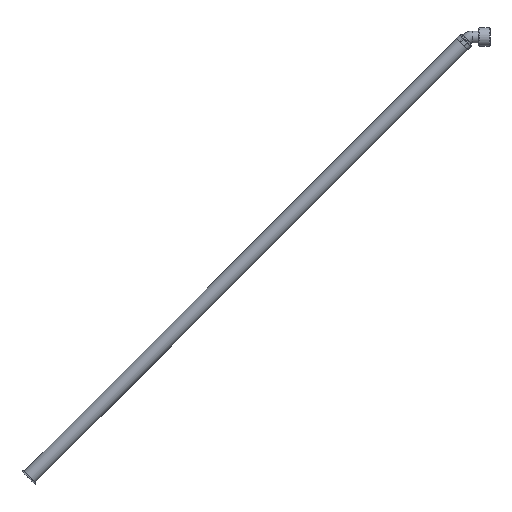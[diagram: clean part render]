
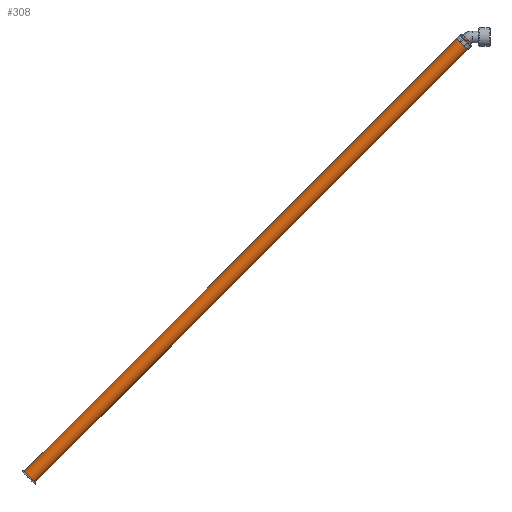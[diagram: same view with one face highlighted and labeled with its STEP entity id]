
A CAD part, top view. The second image highlights one B-rep face of the part: STEP entity #308.
In plain terms, the highlighted cylindrical face has radius 12.5 mm (diameter 25 mm), a full revolution.
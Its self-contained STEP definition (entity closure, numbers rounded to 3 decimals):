
#308 = ADVANCED_FACE( '', ( #427, #428 ), #429, .T. );
#427 = FACE_OUTER_BOUND( '', #595, .T. );
#428 = FACE_OUTER_BOUND( '', #596, .T. );
#429 = CYLINDRICAL_SURFACE( '', #597, 12.5 );
#595 = EDGE_LOOP( '', ( #818 ) );
#596 = EDGE_LOOP( '', ( #819 ) );
#597 = AXIS2_PLACEMENT_3D( '', #820, #821, #822 );
#818 = ORIENTED_EDGE( '', *, *, #1047, .T. );
#819 = ORIENTED_EDGE( '', *, *, #1049, .F. );
#820 = CARTESIAN_POINT( '', ( 1000., 0., 0. ) );
#821 = DIRECTION( '', ( -1., 0., 0. ) );
#822 = DIRECTION( '', ( 0., 0., -1. ) );
#1047 = EDGE_CURVE( '', #1154, #1154, #1155, .T. );
#1049 = EDGE_CURVE( '', #1158, #1158, #1159, .T. );
#1154 = VERTEX_POINT( '', #1304 );
#1155 = CIRCLE( '', #1305, 12.5 );
#1158 = VERTEX_POINT( '', #1308 );
#1159 = CIRCLE( '', #1309, 12.5 );
#1304 = CARTESIAN_POINT( '', ( 0., 0., -12.5 ) );
#1305 = AXIS2_PLACEMENT_3D( '', #1504, #1505, #1506 );
#1308 = CARTESIAN_POINT( '', ( 1000., 0., -12.5 ) );
#1309 = AXIS2_PLACEMENT_3D( '', #1510, #1511, #1512 );
#1504 = CARTESIAN_POINT( '', ( 0., 0., 0. ) );
#1505 = DIRECTION( '', ( 1., 0., 0. ) );
#1506 = DIRECTION( '', ( 0., 0., -1. ) );
#1510 = CARTESIAN_POINT( '', ( 1000., 0., 0. ) );
#1511 = DIRECTION( '', ( 1., 0., 0. ) );
#1512 = DIRECTION( '', ( 0., 0., -1. ) );
